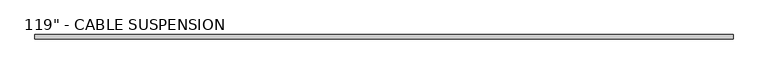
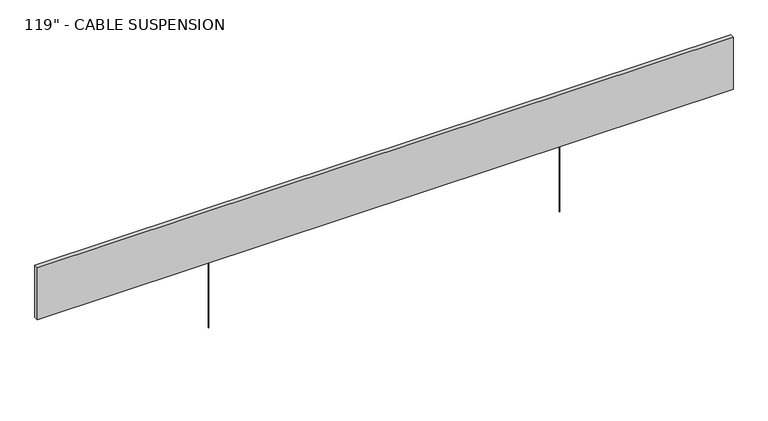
"""IFC4 building model written with IfcOpenShell, lengths in millimetres: proxy geometry."""

from ifc_helpers import new_model, si_unit, point, frame, frame_2d, origin, origin_with_axes, place, context, project, spatial, polyline, circle_curve, trimmed, segment, composite_curve, outline, extrude, source, transform, mapped, element, save


def proxy_e42677c3(model_context):
    return source(origin(), model_context, "Body", "SweptSolid", [
        extrude(outline(composite_curve([segment(trimmed(circle_curve(frame_2d((-762.0, 0.0)), 1.5400297), [point((-763.5400297, 0.0))], [point((-760.4599703, 0.0))], False, "CARTESIAN"), True, "CONTINUOUS"), segment(trimmed(circle_curve(frame_2d((-762.0, 0.0)), 1.5400297), [point((-760.4599703, 0.0))], [point((-763.5400297, 0.0))], False, "CARTESIAN"), True, "CONTINUOUS")], self_intersect=False)), origin_with_axes(), (0.0, 0.0, 1.0), 313.53125),
        extrude(outline(composite_curve([segment(trimmed(circle_curve(frame_2d((762.0, 0.0)), 1.5400297), [point((760.4599703, 0.0))], [point((763.5400297, 0.0))], False, "CARTESIAN"), True, "CONTINUOUS"), segment(trimmed(circle_curve(frame_2d((762.0, 0.0)), 1.5400297), [point((763.5400297, 0.0))], [point((760.4599703, 0.0))], False, "CARTESIAN"), True, "CONTINUOUS")], self_intersect=False)), origin_with_axes(), (0.0, 0.0, 1.0), 313.53125),
        extrude(outline(polyline([(-1511.3, -9.017), (-1511.3, 9.017), (1511.3, 9.017), (1511.3, -9.017), (-1511.3, -9.017)])), frame((0.0, 0.0, 304.8), z_axis=(0.0, 0.0, 1.0), x_axis=(1.0, 0.0, 0.0)), (0.0, 0.0, 1.0), 238.252),
    ])


if __name__ == "__main__":
    model = new_model("IFC4")
    model_context = context("Model", 3, world=origin())
    ifc_project = project(units=[si_unit("LENGTHUNIT", "METRE", prefix="MILLI")], contexts=[model_context])
    site = spatial("IfcSite", under=ifc_project)
    building = spatial("IfcBuilding", under=site)
    placement = place(None, origin())
    proxy_shape = proxy_e42677c3(model_context)
    element("IfcBuildingElementProxy", 1, Name="SE_TIMBER BAFFLE_SINGLE_FB_TURF : 119\" - CABLE SUSPENSION", ObjectType="SE_TIMBER BAFFLE_SINGLE_FB_TURF : 119\" - CABLE SUSPENSION", at=placement, inside=building, context=model_context, shape_type="MappedRepresentation", body=[
        mapped(proxy_shape, transform((0.0, 0.0, 0.0), x_axis=(1.0, 0.0, 0.0), y_axis=(0.0, 1.0, 0.0), z_axis=(0.0, 0.0, 1.0))),
    ])
    save(model, "model.ifc")
